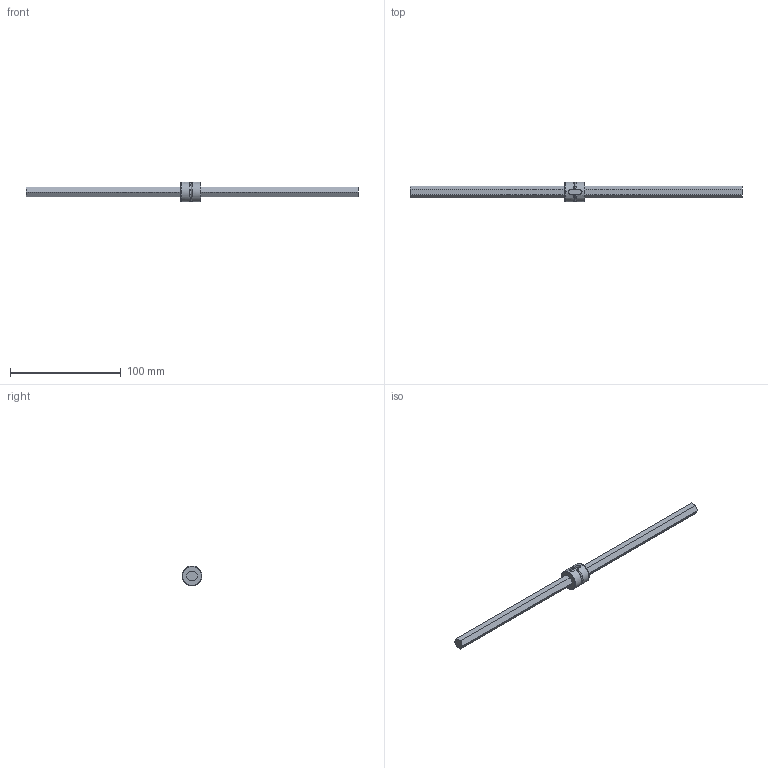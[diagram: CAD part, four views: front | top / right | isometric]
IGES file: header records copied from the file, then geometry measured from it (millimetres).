
Global section: file name: No Iges File Name specified; native system: AutoDesk Inventor R10; preprocessor: AutoDesk Inventor Iges Exporter R10; author: No Author specified; organization: No Organization specified; date: 20101224.162659; units: millimetre
Bounding box: 300 x 18 x 18 mm (x, y, z)
Surface area: 11543.4 mm2 (no closed solid volume)
Topology: 0 solids, 0 shells, 47 faces, 362 edges, 362 vertices
Faces by surface type: bspline 47
